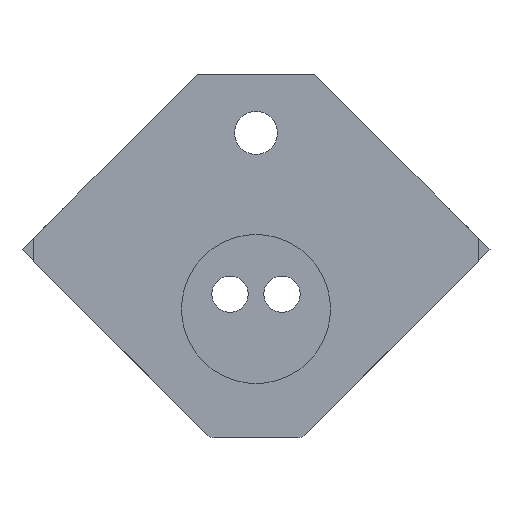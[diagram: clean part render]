
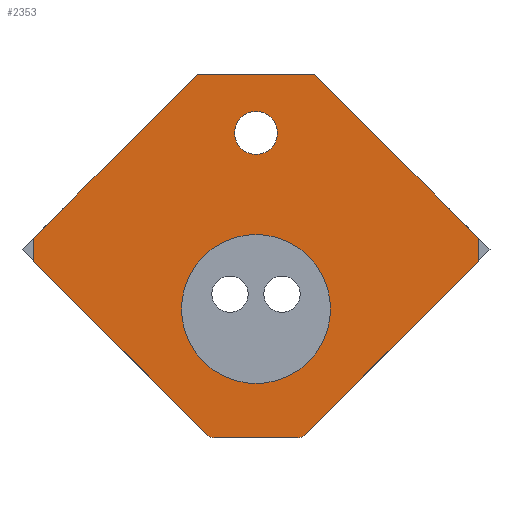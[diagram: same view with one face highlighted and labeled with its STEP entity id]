
A CAD part, front view. The second image highlights one B-rep face of the part: STEP entity #2353.
In plain terms, the highlighted planar face has unit normal (0, -1, 0).
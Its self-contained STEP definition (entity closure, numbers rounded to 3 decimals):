
#4 = VECTOR ( 'NONE', #1337, 1000. ) ;
#37 = VECTOR ( 'NONE', #547, 1000. ) ;
#48 = AXIS2_PLACEMENT_3D ( 'NONE', #532, #533, #534 ) ;
#56 = VECTOR ( 'NONE', #499, 1000. ) ;
#93 = VECTOR ( 'NONE', #424, 1000. ) ;
#98 = VECTOR ( 'NONE', #412, 1000. ) ;
#110 = VECTOR ( 'NONE', #382, 1000. ) ;
#112 = VECTOR ( 'NONE', #1244, 1000. ) ;
#122 = AXIS2_PLACEMENT_3D ( 'NONE', #361, #362, #363 ) ;
#127 = AXIS2_PLACEMENT_3D ( 'NONE', #436, #437, #438 ) ;
#161 = AXIS2_PLACEMENT_3D ( 'NONE', #1196, #625, #1137 ) ;
#173 = FACE_BOUND ( 'NONE', #1838, .T. ) ;
#177 = AXIS2_PLACEMENT_3D ( 'NONE', #1039, #1295, #744 ) ;
#178 = FACE_BOUND ( 'NONE', #1557, .T. ) ;
#184 = FACE_OUTER_BOUND ( 'NONE', #1651, .T. ) ;
#189 = AXIS2_PLACEMENT_3D ( 'NONE', #266, #267, #268 ) ;
#266 = CARTESIAN_POINT ( 'NONE',  ( 0., -50., 92.066 ) ) ;
#267 = DIRECTION ( 'NONE',  ( 0., 1., 0. ) ) ;
#268 = DIRECTION ( 'NONE',  ( -0.707, 0., 0.707 ) ) ;
#361 = CARTESIAN_POINT ( 'NONE',  ( 0., -50., 38.849 ) ) ;
#362 = DIRECTION ( 'NONE',  ( 0., 1., 0. ) ) ;
#363 = DIRECTION ( 'NONE',  ( -0.707, 0., 0.707 ) ) ;
#380 = LINE ( 'NONE', #381, #110 ) ;
#381 = CARTESIAN_POINT ( 'NONE',  ( 0., -50., -14. ) ) ;
#382 = DIRECTION ( 'NONE',  ( -0.707, 0., -0.707 ) ) ;
#410 = LINE ( 'NONE', #411, #98 ) ;
#411 = CARTESIAN_POINT ( 'NONE',  ( -70.711, -50., 56.711 ) ) ;
#412 = DIRECTION ( 'NONE',  ( 0.707, 0., 0.707 ) ) ;
#422 = LINE ( 'NONE', #423, #93 ) ;
#423 = CARTESIAN_POINT ( 'NONE',  ( 0., -50., 127.421 ) ) ;
#424 = DIRECTION ( 'NONE',  ( 0.707, 0., -0.707 ) ) ;
#436 = CARTESIAN_POINT ( 'NONE',  ( 0., -50., 38.849 ) ) ;
#437 = DIRECTION ( 'NONE',  ( 0., 1., 0. ) ) ;
#438 = DIRECTION ( 'NONE',  ( -0.707, 0., 0.707 ) ) ;
#497 = LINE ( 'NONE', #498, #56 ) ;
#498 = CARTESIAN_POINT ( 'NONE',  ( 67.175, -50., 56.711 ) ) ;
#499 = DIRECTION ( 'NONE',  ( 0., 0., 1. ) ) ;
#532 = CARTESIAN_POINT ( 'NONE',  ( 0., -50., 92.066 ) ) ;
#533 = DIRECTION ( 'NONE',  ( 0., 1., 0. ) ) ;
#534 = DIRECTION ( 'NONE',  ( -0.707, 0., 0.707 ) ) ;
#545 = LINE ( 'NONE', #546, #37 ) ;
#546 = CARTESIAN_POINT ( 'NONE',  ( 70.711, -50., 109.744 ) ) ;
#547 = DIRECTION ( 'NONE',  ( -1., 0., 0. ) ) ;
#625 = DIRECTION ( 'NONE',  ( 0., -1., 0. ) ) ;
#744 = DIRECTION ( 'NONE',  ( 0.707, 0., -0.707 ) ) ;
#807 = CARTESIAN_POINT ( 'NONE',  ( 12.55, -50., 3.5 ) ) ;
#812 = CARTESIAN_POINT ( 'NONE',  ( 12.55, -50., 0. ) ) ;
#848 = CARTESIAN_POINT ( 'NONE',  ( 67.175, -50., 53.175 ) ) ;
#851 = CARTESIAN_POINT ( 'NONE',  ( -67.175, -50., 60.246 ) ) ;
#869 = DIRECTION ( 'NONE',  ( 1., 0., 0. ) ) ;
#887 = LINE ( 'NONE', #1327, #112 ) ;
#942 = CARTESIAN_POINT ( 'NONE',  ( 17.678, -50., 109.744 ) ) ;
#983 = CARTESIAN_POINT ( 'NONE',  ( -15.91, -50., 54.759 ) ) ;
#986 = DIRECTION ( 'NONE',  ( 0., -1., 0. ) ) ;
#1006 = CARTESIAN_POINT ( 'NONE',  ( 67.175, -50., 60.246 ) ) ;
#1039 = CARTESIAN_POINT ( 'NONE',  ( 70.711, -50., 56.711 ) ) ;
#1085 = LINE ( 'NONE', #1164, #2493 ) ;
#1101 = PLANE ( 'NONE',  #177 ) ;
#1137 = DIRECTION ( 'NONE',  ( 0., 0., -1. ) ) ;
#1164 = CARTESIAN_POINT ( 'NONE',  ( -12.55, -50., 0. ) ) ;
#1196 = CARTESIAN_POINT ( 'NONE',  ( -12.55, -50., 3.5 ) ) ;
#1205 = CARTESIAN_POINT ( 'NONE',  ( -67.175, -50., 56.711 ) ) ;
#1239 = CARTESIAN_POINT ( 'NONE',  ( -15.025, -50., 1.025 ) ) ;
#1244 = DIRECTION ( 'NONE',  ( -0.707, 0., 0.707 ) ) ;
#1254 = LINE ( 'NONE', #1205, #4 ) ;
#1288 = CARTESIAN_POINT ( 'NONE',  ( -17.678, -50., 109.744 ) ) ;
#1295 = DIRECTION ( 'NONE',  ( 0., -1., 0. ) ) ;
#1317 = DIRECTION ( 'NONE',  ( 0., 0., -1. ) ) ;
#1327 = CARTESIAN_POINT ( 'NONE',  ( -70.711, -50., 56.711 ) ) ;
#1337 = DIRECTION ( 'NONE',  ( 0., 0., -1. ) ) ;
#1341 = CARTESIAN_POINT ( 'NONE',  ( -67.175, -50., 53.175 ) ) ;
#1346 = ORIENTED_EDGE ( 'NONE', *, *, #2803, .T. ) ;
#1372 = VERTEX_POINT ( 'NONE', #1424 ) ;
#1377 = ORIENTED_EDGE ( 'NONE', *, *, #2764, .F. ) ;
#1389 = ORIENTED_EDGE ( 'NONE', *, *, #2778, .F. ) ;
#1424 = CARTESIAN_POINT ( 'NONE',  ( 15.025, -50., 1.025 ) ) ;
#1440 = VERTEX_POINT ( 'NONE', #1620 ) ;
#1441 = VERTEX_POINT ( 'NONE', #1709 ) ;
#1442 = VERTEX_POINT ( 'NONE', #1908 ) ;
#1478 = VERTEX_POINT ( 'NONE', #1905 ) ;
#1493 = ORIENTED_EDGE ( 'NONE', *, *, #2815, .T. ) ;
#1557 = EDGE_LOOP ( 'NONE', ( #1969, #2107 ) ) ;
#1569 = ORIENTED_EDGE ( 'NONE', *, *, #2774, .F. ) ;
#1584 = VERTEX_POINT ( 'NONE', #812 ) ;
#1606 = VERTEX_POINT ( 'NONE', #1239 ) ;
#1610 = VERTEX_POINT ( 'NONE', #1288 ) ;
#1616 = VERTEX_POINT ( 'NONE', #942 ) ;
#1620 = CARTESIAN_POINT ( 'NONE',  ( 4.596, -50., 87.47 ) ) ;
#1645 = ORIENTED_EDGE ( 'NONE', *, *, #2388, .T. ) ;
#1651 = EDGE_LOOP ( 'NONE', ( #2145, #1937, #1986, #2069, #1377, #1346, #1389, #1765, #1569, #1645 ) ) ;
#1668 = VERTEX_POINT ( 'NONE', #851 ) ;
#1670 = VERTEX_POINT ( 'NONE', #1006 ) ;
#1685 = VERTEX_POINT ( 'NONE', #1341 ) ;
#1709 = CARTESIAN_POINT ( 'NONE',  ( -4.596, -50., 96.662 ) ) ;
#1748 = VERTEX_POINT ( 'NONE', #848 ) ;
#1765 = ORIENTED_EDGE ( 'NONE', *, *, #2819, .T. ) ;
#1838 = EDGE_LOOP ( 'NONE', ( #1493, #1960 ) ) ;
#1905 = CARTESIAN_POINT ( 'NONE',  ( -12.55, -50., 0. ) ) ;
#1908 = CARTESIAN_POINT ( 'NONE',  ( 15.91, -50., 22.939 ) ) ;
#1937 = ORIENTED_EDGE ( 'NONE', *, *, #2356, .T. ) ;
#1960 = ORIENTED_EDGE ( 'NONE', *, *, #2468, .T. ) ;
#1969 = ORIENTED_EDGE ( 'NONE', *, *, #2783, .T. ) ;
#1980 = VERTEX_POINT ( 'NONE', #983 ) ;
#1986 = ORIENTED_EDGE ( 'NONE', *, *, #2261, .T. ) ;
#2069 = ORIENTED_EDGE ( 'NONE', *, *, #2232, .T. ) ;
#2107 = ORIENTED_EDGE ( 'NONE', *, *, #2758, .T. ) ;
#2145 = ORIENTED_EDGE ( 'NONE', *, *, #2372, .F. ) ;
#2232 = EDGE_CURVE ( 'NONE', #1584, #1372, #2362, .T. ) ;
#2261 = EDGE_CURVE ( 'NONE', #1478, #1584, #1085, .T. ) ;
#2353 = ADVANCED_FACE ( 'NONE', ( #184, #178, #173 ), #1101, .T. ) ;
#2356 = EDGE_CURVE ( 'NONE', #1606, #1478, #2488, .T. ) ;
#2362 = CIRCLE ( 'NONE', #2735, 3.5 ) ;
#2372 = EDGE_CURVE ( 'NONE', #1606, #1685, #887, .T. ) ;
#2388 = EDGE_CURVE ( 'NONE', #1668, #1685, #1254, .T. ) ;
#2409 = CIRCLE ( 'NONE', #127, 22.5 ) ;
#2414 = CIRCLE ( 'NONE', #122, 22.5 ) ;
#2430 = CIRCLE ( 'NONE', #189, 6.5 ) ;
#2442 = CIRCLE ( 'NONE', #48, 6.5 ) ;
#2468 = EDGE_CURVE ( 'NONE', #1440, #1441, #2430, .T. ) ;
#2488 = CIRCLE ( 'NONE', #161, 3.5 ) ;
#2493 = VECTOR ( 'NONE', #869, 1000. ) ;
#2735 = AXIS2_PLACEMENT_3D ( 'NONE', #807, #986, #1317 ) ;
#2758 = EDGE_CURVE ( 'NONE', #1442, #1980, #2414, .T. ) ;
#2764 = EDGE_CURVE ( 'NONE', #1748, #1372, #380, .T. ) ;
#2774 = EDGE_CURVE ( 'NONE', #1668, #1610, #410, .T. ) ;
#2778 = EDGE_CURVE ( 'NONE', #1616, #1670, #422, .T. ) ;
#2783 = EDGE_CURVE ( 'NONE', #1980, #1442, #2409, .T. ) ;
#2803 = EDGE_CURVE ( 'NONE', #1748, #1670, #497, .T. ) ;
#2815 = EDGE_CURVE ( 'NONE', #1441, #1440, #2442, .T. ) ;
#2819 = EDGE_CURVE ( 'NONE', #1616, #1610, #545, .T. ) ;
